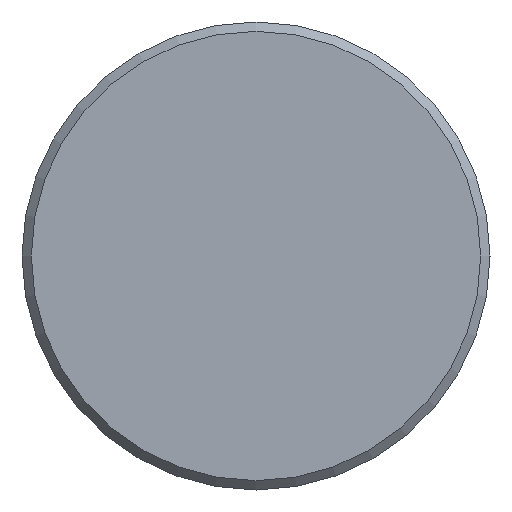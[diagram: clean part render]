
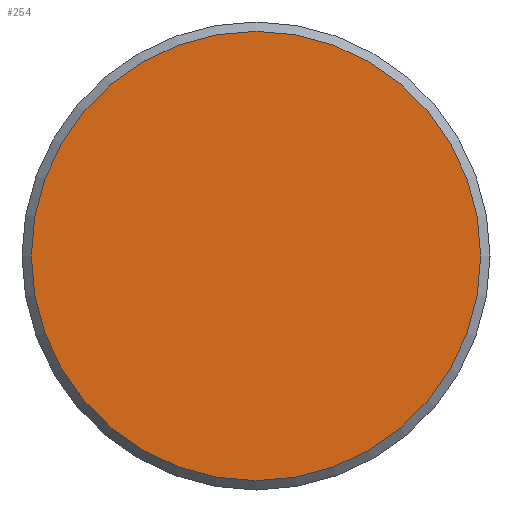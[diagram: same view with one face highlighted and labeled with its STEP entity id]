
A CAD part, left-side view. The second image highlights one B-rep face of the part: STEP entity #254.
In plain terms, the highlighted planar face has unit normal (-1, 0, 0).
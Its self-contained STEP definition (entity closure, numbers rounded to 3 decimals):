
#41=FACE_OUTER_BOUND('',#59,.T.);
#59=EDGE_LOOP('',(#207));
#101=CIRCLE('',#302,4.8);
#125=VERTEX_POINT('',#493);
#154=EDGE_CURVE('',#125,#125,#101,.T.);
#207=ORIENTED_EDGE('',*,*,#154,.F.);
#243=PLANE('',#301);
#254=ADVANCED_FACE('',(#41),#243,.T.);
#301=AXIS2_PLACEMENT_3D('',#492,#363,#364);
#302=AXIS2_PLACEMENT_3D('',#494,#365,#366);
#363=DIRECTION('center_axis',(-1.,0.,0.));
#364=DIRECTION('ref_axis',(0.,0.,1.));
#365=DIRECTION('center_axis',(1.,0.,0.));
#366=DIRECTION('ref_axis',(0.,0.,-1.));
#492=CARTESIAN_POINT('Origin',(-30.,4.8,0.));
#493=CARTESIAN_POINT('',(-30.,-4.8,0.));
#494=CARTESIAN_POINT('Origin',(-30.,0.,0.));
